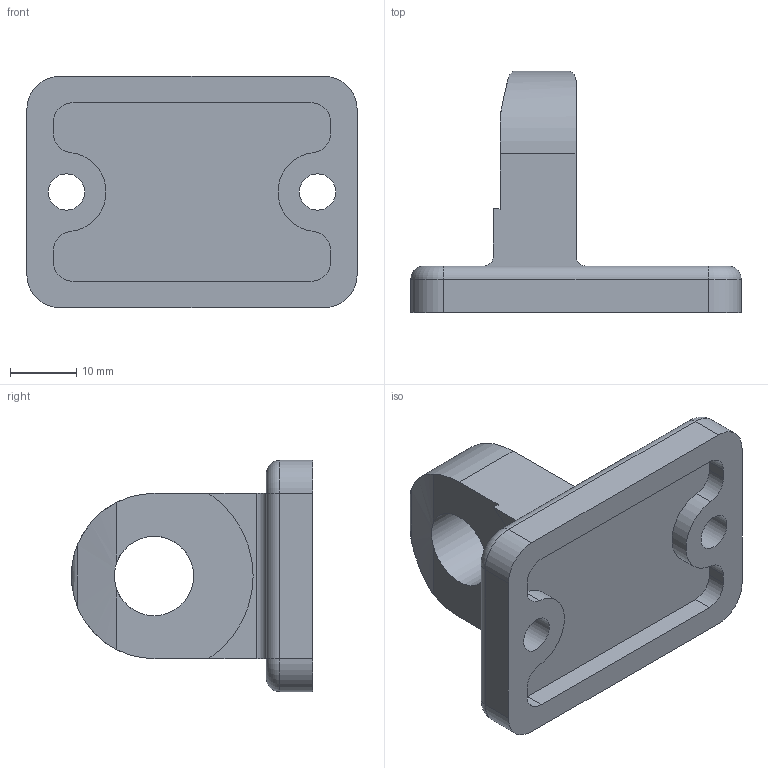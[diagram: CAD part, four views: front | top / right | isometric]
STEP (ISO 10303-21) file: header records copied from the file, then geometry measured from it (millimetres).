
FILE_DESCRIPTION( ( 'STEP AP203' ), '1' );
FILE_NAME( 'C:/Temp/Ganter_Step_05_03_2020/data/3_7/gn271_4/Sensor holder GN 271.4-B12-25-SW.stp', '2020-03-12T14:40:23', ( 'License CC BY-ND 4.0' ), ( 'CADENAS' ), ' ', 'PARTsolutions', ' ' );
FILE_SCHEMA( ( 'CONFIG_CONTROL_DESIGN' ) );
Length unit declared in the file: millimetre
Products named in the file (1): _Sensor holder GN 271.4-B12-25-SW
Bounding box: 50 x 36.5 x 35 mm (x, y, z)
Volume: 15225.3 mm3; surface area: 7108.6 mm2
Topology: 1 solids, 1 shells, 50 faces, 133 edges, 86 vertices
Faces by surface type: cylinder 28, plane 18, torus 4
Full cylindrical faces by diameter (mm): 5.5 x2, 12 x1
Entity records: 1660 total; most frequent: CARTESIAN_POINT 334, DIRECTION 282, ORIENTED_EDGE 258, EDGE_CURVE 129, AXIS2_PLACEMENT_3D 107, VERTEX_POINT 85, LINE 68, VECTOR 68
